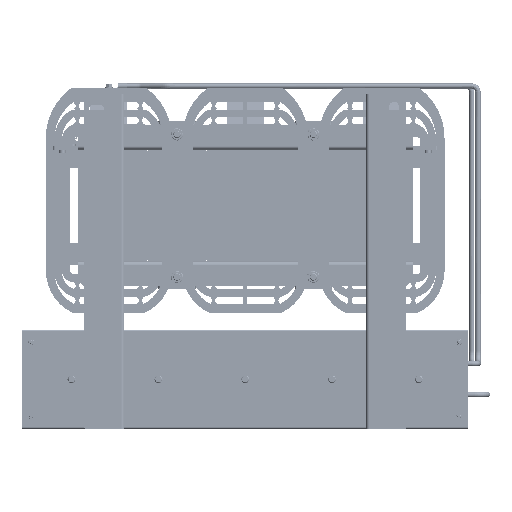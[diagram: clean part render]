
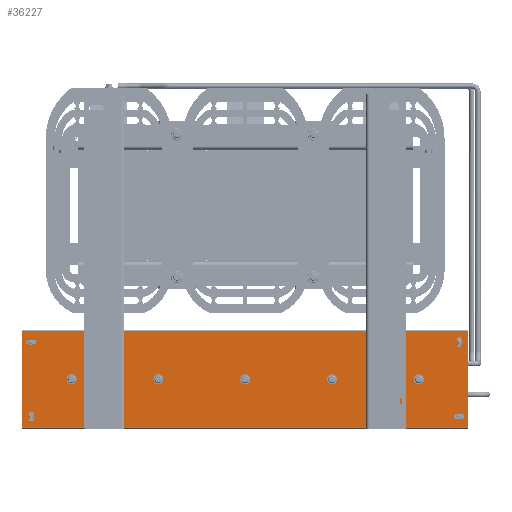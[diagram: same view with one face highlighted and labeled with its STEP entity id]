
A CAD part, front view. The second image highlights one B-rep face of the part: STEP entity #36227.
In plain terms, the highlighted planar face has unit normal (0, -1, 0) as drawn and (0, 0, -1) by its records, which use the part's own axes.
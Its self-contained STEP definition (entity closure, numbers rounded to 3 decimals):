
#36227=ADVANCED_FACE('',(#103676,#103678,#103680,#103682,#103684,#103686,#103688,
#103690,#103692,#103694),#103696,.T.);
#103676=FACE_BOUND('',#103677,.T.);
#103677=EDGE_LOOP('',(#153213,#153214,#153215,#153216));
#103678=FACE_BOUND('',#103679,.T.);
#103679=EDGE_LOOP('',(#153217,#153218,#153219,#153220));
#103680=FACE_BOUND('',#103681,.T.);
#103681=EDGE_LOOP('',(#153221,#153222,#153223,#153224));
#103682=FACE_BOUND('',#103683,.T.);
#103683=EDGE_LOOP('',(#153225));
#103684=FACE_BOUND('',#103685,.T.);
#103685=EDGE_LOOP('',(#153226));
#103686=FACE_BOUND('',#103687,.T.);
#103687=EDGE_LOOP('',(#153227));
#103688=FACE_BOUND('',#103689,.T.);
#103689=EDGE_LOOP('',(#153228));
#103690=FACE_BOUND('',#103691,.T.);
#103691=EDGE_LOOP('',(#153229));
#103692=FACE_BOUND('',#103693,.T.);
#103693=EDGE_LOOP('',(#153230,#153231,#153232,#153233));
#103694=FACE_BOUND('',#103695,.T.);
#103695=EDGE_LOOP('',(#153234,#153235,#153236,#153237));
#103696=PLANE('',#103697);
#103697=AXIS2_PLACEMENT_3D('',#103698,#103699,#103700);
#103698=CARTESIAN_POINT('',(359.999,333.004,-0.004));
#103699=DIRECTION('',(0.,0.,-1.));
#103700=DIRECTION('',(-1.,0.,0.));
#153213=ORIENTED_EDGE('',*,*,#179540,.F.);
#153214=ORIENTED_EDGE('',*,*,#179640,.T.);
#153215=ORIENTED_EDGE('',*,*,#179462,.T.);
#153216=ORIENTED_EDGE('',*,*,#179638,.F.);
#153217=ORIENTED_EDGE('',*,*,#179617,.T.);
#153218=ORIENTED_EDGE('',*,*,#179615,.T.);
#153219=ORIENTED_EDGE('',*,*,#179613,.T.);
#153220=ORIENTED_EDGE('',*,*,#179619,.T.);
#153221=ORIENTED_EDGE('',*,*,#179625,.T.);
#153222=ORIENTED_EDGE('',*,*,#179623,.T.);
#153223=ORIENTED_EDGE('',*,*,#179621,.T.);
#153224=ORIENTED_EDGE('',*,*,#179627,.T.);
#153225=ORIENTED_EDGE('',*,*,#179241,.T.);
#153226=ORIENTED_EDGE('',*,*,#179243,.T.);
#153227=ORIENTED_EDGE('',*,*,#179245,.T.);
#153228=ORIENTED_EDGE('',*,*,#179247,.T.);
#153229=ORIENTED_EDGE('',*,*,#179249,.T.);
#153230=ORIENTED_EDGE('',*,*,#179630,.T.);
#153231=ORIENTED_EDGE('',*,*,#179253,.T.);
#153232=ORIENTED_EDGE('',*,*,#179629,.T.);
#153233=ORIENTED_EDGE('',*,*,#179632,.T.);
#153234=ORIENTED_EDGE('',*,*,#179637,.T.);
#153235=ORIENTED_EDGE('',*,*,#179635,.T.);
#153236=ORIENTED_EDGE('',*,*,#179633,.T.);
#153237=ORIENTED_EDGE('',*,*,#179257,.T.);
#179241=EDGE_CURVE('',#199983,#199983,#199984,.T.);
#179243=EDGE_CURVE('',#199987,#199987,#199988,.T.);
#179245=EDGE_CURVE('',#199991,#199991,#199992,.T.);
#179247=EDGE_CURVE('',#199995,#199995,#199996,.T.);
#179249=EDGE_CURVE('',#199999,#199999,#200000,.T.);
#179253=EDGE_CURVE('',#200002,#200006,#200008,.T.);
#179257=EDGE_CURVE('',#200009,#200014,#200016,.T.);
#179462=EDGE_CURVE('',#200423,#200424,#200425,.T.);
#179540=EDGE_CURVE('',#200555,#200557,#200558,.T.);
#179613=EDGE_CURVE('',#200679,#200677,#200680,.T.);
#179615=EDGE_CURVE('',#200682,#200679,#200683,.T.);
#179617=EDGE_CURVE('',#200685,#200682,#200686,.T.);
#179619=EDGE_CURVE('',#200677,#200685,#200688,.T.);
#179621=EDGE_CURVE('',#200691,#200689,#200692,.T.);
#179623=EDGE_CURVE('',#200694,#200691,#200695,.T.);
#179625=EDGE_CURVE('',#200697,#200694,#200698,.T.);
#179627=EDGE_CURVE('',#200689,#200697,#200700,.T.);
#179629=EDGE_CURVE('',#200006,#200701,#200703,.T.);
#179630=EDGE_CURVE('',#200704,#200002,#200705,.T.);
#179632=EDGE_CURVE('',#200701,#200704,#200707,.T.);
#179633=EDGE_CURVE('',#200708,#200009,#200709,.T.);
#179635=EDGE_CURVE('',#200711,#200708,#200712,.T.);
#179637=EDGE_CURVE('',#200014,#200711,#200714,.T.);
#179638=EDGE_CURVE('',#200557,#200424,#200715,.T.);
#179640=EDGE_CURVE('',#200555,#200423,#200717,.T.);
#199983=VERTEX_POINT('',#289377);
#199984=CIRCLE('',#289378,6.5);
#199987=VERTEX_POINT('',#289387);
#199988=CIRCLE('',#289388,6.5);
#199991=VERTEX_POINT('',#289397);
#199992=CIRCLE('',#289398,6.5);
#199995=VERTEX_POINT('',#289407);
#199996=CIRCLE('',#289408,6.5);
#199999=VERTEX_POINT('',#289417);
#200000=CIRCLE('',#289418,6.5);
#200002=VERTEX_POINT('',#289423);
#200006=VERTEX_POINT('',#289432);
#200008=CIRCLE('',#289436,4.);
#200009=VERTEX_POINT('',#289440);
#200014=VERTEX_POINT('',#289450);
#200016=CIRCLE('',#289454,4.);
#200423=VERTEX_POINT('',#290376);
#200424=VERTEX_POINT('',#290377);
#200425=LINE('',#290378,#290379);
#200555=VERTEX_POINT('',#290687);
#200557=VERTEX_POINT('',#290692);
#200558=LINE('',#290693,#290694);
#200677=VERTEX_POINT('',#290980);
#200679=VERTEX_POINT('',#290984);
#200680=LINE('',#290985,#290986);
#200682=VERTEX_POINT('',#290991);
#200683=CIRCLE('',#290992,4.);
#200685=VERTEX_POINT('',#290999);
#200686=LINE('',#291000,#291001);
#200688=CIRCLE('',#291006,4.);
#200689=VERTEX_POINT('',#291010);
#200691=VERTEX_POINT('',#291014);
#200692=LINE('',#291015,#291016);
#200694=VERTEX_POINT('',#291021);
#200695=CIRCLE('',#291022,4.);
#200697=VERTEX_POINT('',#291029);
#200698=LINE('',#291030,#291031);
#200700=CIRCLE('',#291036,4.);
#200701=VERTEX_POINT('',#291040);
#200703=LINE('',#291044,#291045);
#200704=VERTEX_POINT('',#291047);
#200705=LINE('',#291048,#291049);
#200707=CIRCLE('',#291054,4.);
#200708=VERTEX_POINT('',#291058);
#200709=LINE('',#291059,#291060);
#200711=VERTEX_POINT('',#291065);
#200712=CIRCLE('',#291066,4.);
#200714=LINE('',#291073,#291074);
#200715=LINE('',#291076,#291077);
#200717=LINE('',#291082,#291083);
#289377=CARTESIAN_POINT('',(-133.501,410.004,-0.004));
#289378=AXIS2_PLACEMENT_3D('',#289379,#289380,#289381);
#289379=CARTESIAN_POINT('',(-140.001,410.004,-0.004));
#289380=DIRECTION('',(0.,0.,1.));
#289381=DIRECTION('',(-1.,0.,0.));
#289387=CARTESIAN_POINT('',(286.499,410.004,-0.004));
#289388=AXIS2_PLACEMENT_3D('',#289389,#289390,#289391);
#289389=CARTESIAN_POINT('',(279.999,410.004,-0.004));
#289390=DIRECTION('',(0.,0.,1.));
#289391=DIRECTION('',(-1.,0.,0.));
#289397=CARTESIAN_POINT('',(146.499,410.004,-0.004));
#289398=AXIS2_PLACEMENT_3D('',#289399,#289400,#289401);
#289399=CARTESIAN_POINT('',(139.999,410.004,-0.004));
#289400=DIRECTION('',(0.,0.,1.));
#289401=DIRECTION('',(-1.,0.,0.));
#289407=CARTESIAN_POINT('',(6.499,410.004,-0.004));
#289408=AXIS2_PLACEMENT_3D('',#289409,#289410,#289411);
#289409=CARTESIAN_POINT('',(-0.001,410.004,-0.004));
#289410=DIRECTION('',(0.,0.,1.));
#289411=DIRECTION('',(-1.,0.,0.));
#289417=CARTESIAN_POINT('',(-273.501,410.004,-0.004));
#289418=AXIS2_PLACEMENT_3D('',#289419,#289420,#289421);
#289419=CARTESIAN_POINT('',(-280.001,410.004,-0.004));
#289420=DIRECTION('',(0.,0.,1.));
#289421=DIRECTION('',(-1.,0.,0.));
#289423=CARTESIAN_POINT('',(348.999,466.004,-0.004));
#289432=CARTESIAN_POINT('',(348.999,474.004,-0.004));
#289436=AXIS2_PLACEMENT_3D('',#289437,#289438,#289439);
#289437=CARTESIAN_POINT('',(348.999,470.004,-0.004));
#289438=DIRECTION('',(0.,0.,1.));
#289439=DIRECTION('',(0.,-1.,0.));
#289440=CARTESIAN_POINT('',(-341.001,346.004,-0.004));
#289450=CARTESIAN_POINT('',(-341.001,354.004,-0.004));
#289454=AXIS2_PLACEMENT_3D('',#289455,#289456,#289457);
#289455=CARTESIAN_POINT('',(-341.001,350.004,-0.004));
#289456=DIRECTION('',(0.,0.,1.));
#289457=DIRECTION('',(0.,-1.,0.));
#290376=CARTESIAN_POINT('',(-360.001,333.004,-0.004));
#290377=CARTESIAN_POINT('',(-360.001,487.004,-0.004));
#290378=CARTESIAN_POINT('',(-360.001,333.004,-0.004));
#290379=VECTOR('',#290380,1.);
#290380=DIRECTION('',(0.,1.,0.));
#290687=CARTESIAN_POINT('',(359.999,333.004,-0.004));
#290692=CARTESIAN_POINT('',(359.999,487.004,-0.004));
#290693=CARTESIAN_POINT('',(359.999,333.004,-0.004));
#290694=VECTOR('',#290695,1.);
#290695=DIRECTION('',(0.,1.,0.));
#290980=CARTESIAN_POINT('',(-341.001,474.004,-0.004));
#290984=CARTESIAN_POINT('',(-341.001,466.004,-0.004));
#290985=CARTESIAN_POINT('',(-341.001,466.004,-0.004));
#290986=VECTOR('',#290987,1.);
#290987=DIRECTION('',(0.,1.,0.));
#290991=CARTESIAN_POINT('',(-349.001,466.004,-0.004));
#290992=AXIS2_PLACEMENT_3D('',#290993,#290994,#290995);
#290993=CARTESIAN_POINT('',(-345.001,466.004,-0.004));
#290994=DIRECTION('',(0.,0.,1.));
#290995=DIRECTION('',(-1.,0.,0.));
#290999=CARTESIAN_POINT('',(-349.001,474.004,-0.004));
#291000=CARTESIAN_POINT('',(-349.001,474.004,-0.004));
#291001=VECTOR('',#291002,1.);
#291002=DIRECTION('',(0.,-1.,0.));
#291006=AXIS2_PLACEMENT_3D('',#291007,#291008,#291009);
#291007=CARTESIAN_POINT('',(-345.001,474.004,-0.004));
#291008=DIRECTION('',(0.,0.,1.));
#291009=DIRECTION('',(1.,0.,0.));
#291010=CARTESIAN_POINT('',(340.999,346.004,-0.004));
#291014=CARTESIAN_POINT('',(340.999,354.004,-0.004));
#291015=CARTESIAN_POINT('',(340.999,354.004,-0.004));
#291016=VECTOR('',#291017,1.);
#291017=DIRECTION('',(0.,-1.,0.));
#291021=CARTESIAN_POINT('',(348.999,354.004,-0.004));
#291022=AXIS2_PLACEMENT_3D('',#291023,#291024,#291025);
#291023=CARTESIAN_POINT('',(344.999,354.004,-0.004));
#291024=DIRECTION('',(0.,0.,1.));
#291025=DIRECTION('',(1.,0.,0.));
#291029=CARTESIAN_POINT('',(348.999,346.004,-0.004));
#291030=CARTESIAN_POINT('',(348.999,346.004,-0.004));
#291031=VECTOR('',#291032,1.);
#291032=DIRECTION('',(0.,1.,0.));
#291036=AXIS2_PLACEMENT_3D('',#291037,#291038,#291039);
#291037=CARTESIAN_POINT('',(344.999,346.004,-0.004));
#291038=DIRECTION('',(0.,0.,1.));
#291039=DIRECTION('',(-1.,0.,0.));
#291040=CARTESIAN_POINT('',(340.999,474.004,-0.004));
#291044=CARTESIAN_POINT('',(348.999,474.004,-0.004));
#291045=VECTOR('',#291046,1.);
#291046=DIRECTION('',(-1.,0.,0.));
#291047=CARTESIAN_POINT('',(340.999,466.004,-0.004));
#291048=CARTESIAN_POINT('',(340.999,466.004,-0.004));
#291049=VECTOR('',#291050,1.);
#291050=DIRECTION('',(1.,0.,0.));
#291054=AXIS2_PLACEMENT_3D('',#291055,#291056,#291057);
#291055=CARTESIAN_POINT('',(340.999,470.004,-0.004));
#291056=DIRECTION('',(0.,0.,1.));
#291057=DIRECTION('',(0.,1.,0.));
#291058=CARTESIAN_POINT('',(-349.001,346.004,-0.004));
#291059=CARTESIAN_POINT('',(-349.001,346.004,-0.004));
#291060=VECTOR('',#291061,1.);
#291061=DIRECTION('',(1.,0.,0.));
#291065=CARTESIAN_POINT('',(-349.001,354.004,-0.004));
#291066=AXIS2_PLACEMENT_3D('',#291067,#291068,#291069);
#291067=CARTESIAN_POINT('',(-349.001,350.004,-0.004));
#291068=DIRECTION('',(0.,0.,1.));
#291069=DIRECTION('',(0.,1.,0.));
#291073=CARTESIAN_POINT('',(-341.001,354.004,-0.004));
#291074=VECTOR('',#291075,1.);
#291075=DIRECTION('',(-1.,0.,0.));
#291076=CARTESIAN_POINT('',(359.999,487.004,-0.004));
#291077=VECTOR('',#291078,1.);
#291078=DIRECTION('',(-1.,0.,0.));
#291082=CARTESIAN_POINT('',(359.999,333.004,-0.004));
#291083=VECTOR('',#291084,1.);
#291084=DIRECTION('',(-1.,0.,0.));
